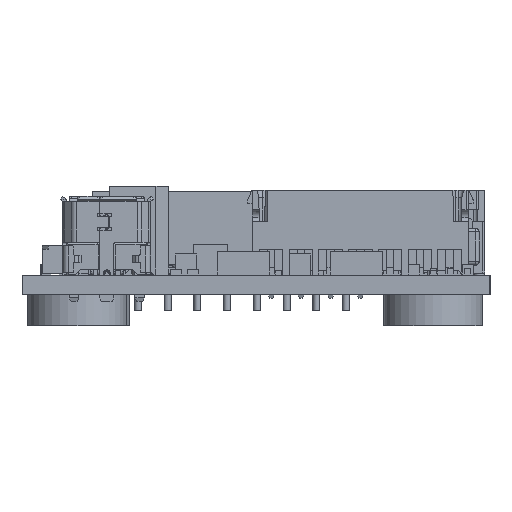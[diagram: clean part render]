
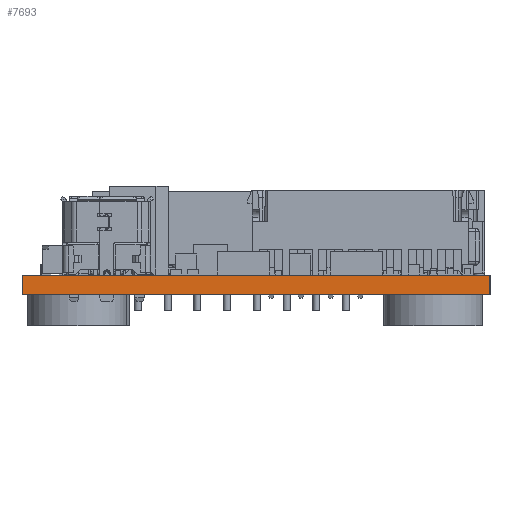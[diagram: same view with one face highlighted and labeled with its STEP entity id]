
A CAD part, left-side view. The second image highlights one B-rep face of the part: STEP entity #7693.
In plain terms, the highlighted planar face has unit normal (-1, 0, 0).
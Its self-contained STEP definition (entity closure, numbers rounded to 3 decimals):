
#532=FACE_OUTER_BOUND('',#50955,.T.);
#7693=ADVANCED_FACE('',(#532),#14091,.T.);
#14091=PLANE('',#121250);
#21604=LINE('',#162979,#35680);
#22058=LINE('',#164116,#36134);
#22059=LINE('',#164118,#36135);
#22060=LINE('',#164120,#36136);
#35680=VECTOR('',#130018,1.);
#36134=VECTOR('',#130542,1.);
#36135=VECTOR('',#130543,1.);
#36136=VECTOR('',#130544,1.);
#50955=EDGE_LOOP('',(#59358,#59359,#59360,#59361));
#59358=ORIENTED_EDGE('',*,*,#104550,.T.);
#59359=ORIENTED_EDGE('',*,*,#104044,.T.);
#59360=ORIENTED_EDGE('',*,*,#104551,.F.);
#59361=ORIENTED_EDGE('',*,*,#104552,.F.);
#92846=VERTEX_POINT('',#162974);
#92848=VERTEX_POINT('',#162978);
#93354=VERTEX_POINT('',#164117);
#93355=VERTEX_POINT('',#164119);
#104044=EDGE_CURVE('',#92846,#92848,#21604,.T.);
#104550=EDGE_CURVE('',#93354,#92846,#22058,.T.);
#104551=EDGE_CURVE('',#93355,#92848,#22059,.T.);
#104552=EDGE_CURVE('',#93354,#93355,#22060,.T.);
#121250=AXIS2_PLACEMENT_3D('',#164121,#130545,#130546);
#130018=DIRECTION('',(0.,1.,0.));
#130542=DIRECTION('',(0.,0.,1.));
#130543=DIRECTION('',(0.,0.,1.));
#130544=DIRECTION('',(0.,1.,0.));
#130545=DIRECTION('',(-1.,0.,0.));
#130546=DIRECTION('',(0.,-1.,0.));
#162974=CARTESIAN_POINT('',(0.,0.,0.));
#162978=CARTESIAN_POINT('',(0.,40.,0.));
#162979=CARTESIAN_POINT('',(0.,0.,0.));
#164116=CARTESIAN_POINT('',(0.,0.,-1.662));
#164117=CARTESIAN_POINT('',(0.,0.,-1.662));
#164118=CARTESIAN_POINT('',(0.,40.,-1.662));
#164119=CARTESIAN_POINT('',(0.,40.,-1.662));
#164120=CARTESIAN_POINT('',(0.,0.,-1.662));
#164121=CARTESIAN_POINT('',(0.,0.,-1.662));
